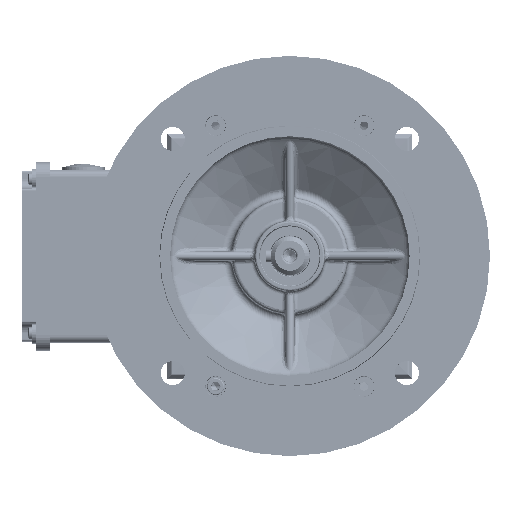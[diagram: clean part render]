
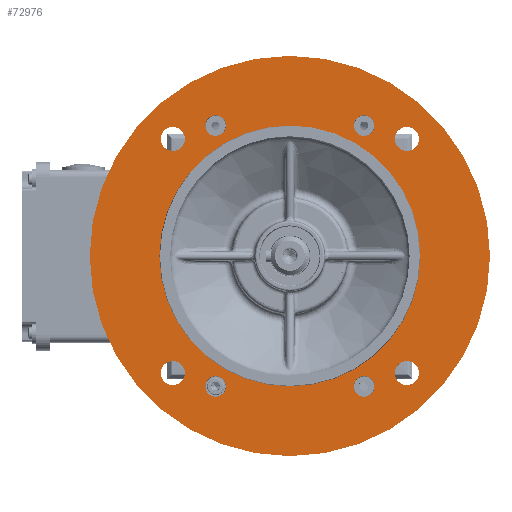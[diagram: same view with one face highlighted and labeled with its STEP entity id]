
A CAD part, top view. The second image highlights one B-rep face of the part: STEP entity #72976.
In plain terms, the highlighted planar face has unit normal (0, 0, 1).
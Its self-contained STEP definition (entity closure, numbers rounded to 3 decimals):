
#63019=PLANE('',#228924);
#72976=ADVANCED_FACE('',(#78710,#78711,#78712,#78713,#78714,#78715,#78716,
#78717,#78718,#78719),#63019,.T.);
#78710=FACE_BOUND('',#89205,.T.);
#78711=FACE_BOUND('',#89206,.T.);
#78712=FACE_BOUND('',#89207,.T.);
#78713=FACE_BOUND('',#89208,.T.);
#78714=FACE_BOUND('',#89209,.T.);
#78715=FACE_BOUND('',#89210,.T.);
#78716=FACE_BOUND('',#89211,.T.);
#78717=FACE_BOUND('',#89212,.T.);
#78718=FACE_BOUND('',#89213,.T.);
#78719=FACE_BOUND('',#89214,.T.);
#89205=EDGE_LOOP('',(#133119));
#89206=EDGE_LOOP('',(#133120));
#89207=EDGE_LOOP('',(#133121));
#89208=EDGE_LOOP('',(#133122));
#89209=EDGE_LOOP('',(#133123));
#89210=EDGE_LOOP('',(#133124));
#89211=EDGE_LOOP('',(#133125));
#89212=EDGE_LOOP('',(#133126));
#89213=EDGE_LOOP('',(#133127));
#89214=EDGE_LOOP('',(#133128));
#133119=ORIENTED_EDGE('',*,*,#177896,.T.);
#133120=ORIENTED_EDGE('',*,*,#177897,.T.);
#133121=ORIENTED_EDGE('',*,*,#177898,.T.);
#133122=ORIENTED_EDGE('',*,*,#177899,.T.);
#133123=ORIENTED_EDGE('',*,*,#177900,.T.);
#133124=ORIENTED_EDGE('',*,*,#177901,.T.);
#133125=ORIENTED_EDGE('',*,*,#177902,.T.);
#133126=ORIENTED_EDGE('',*,*,#177903,.T.);
#133127=ORIENTED_EDGE('',*,*,#177895,.T.);
#133128=ORIENTED_EDGE('',*,*,#176554,.T.);
#153230=VERTEX_POINT('',#420367);
#153986=VERTEX_POINT('',#436689);
#153987=VERTEX_POINT('',#436692);
#153988=VERTEX_POINT('',#436694);
#153989=VERTEX_POINT('',#436696);
#153990=VERTEX_POINT('',#436698);
#153991=VERTEX_POINT('',#436700);
#153992=VERTEX_POINT('',#436702);
#153993=VERTEX_POINT('',#436704);
#153994=VERTEX_POINT('',#436706);
#176554=EDGE_CURVE('',#153230,#153230,#190190,.T.);
#177895=EDGE_CURVE('',#153986,#153986,#190692,.T.);
#177896=EDGE_CURVE('',#153987,#153987,#190693,.T.);
#177897=EDGE_CURVE('',#153988,#153988,#190694,.T.);
#177898=EDGE_CURVE('',#153989,#153989,#190695,.T.);
#177899=EDGE_CURVE('',#153990,#153990,#190696,.T.);
#177900=EDGE_CURVE('',#153991,#153991,#190697,.T.);
#177901=EDGE_CURVE('',#153992,#153992,#190698,.T.);
#177902=EDGE_CURVE('',#153993,#153993,#190699,.T.);
#177903=EDGE_CURVE('',#153994,#153994,#190700,.T.);
#190190=CIRCLE('',#228101,65.);
#190692=CIRCLE('',#228914,99.75);
#190693=CIRCLE('',#228916,5.134);
#190694=CIRCLE('',#228917,5.134);
#190695=CIRCLE('',#228918,5.134);
#190696=CIRCLE('',#228919,5.134);
#190697=CIRCLE('',#228920,6.);
#190698=CIRCLE('',#228921,6.);
#190699=CIRCLE('',#228922,6.);
#190700=CIRCLE('',#228923,6.);
#228101=AXIS2_PLACEMENT_3D('',#420366,#266297,#266298);
#228914=AXIS2_PLACEMENT_3D('',#436688,#268103,#268104);
#228916=AXIS2_PLACEMENT_3D('',#436691,#268107,#268108);
#228917=AXIS2_PLACEMENT_3D('',#436693,#268109,#268110);
#228918=AXIS2_PLACEMENT_3D('',#436695,#268111,#268112);
#228919=AXIS2_PLACEMENT_3D('',#436697,#268113,#268114);
#228920=AXIS2_PLACEMENT_3D('',#436699,#268115,#268116);
#228921=AXIS2_PLACEMENT_3D('',#436701,#268117,#268118);
#228922=AXIS2_PLACEMENT_3D('',#436703,#268119,#268120);
#228923=AXIS2_PLACEMENT_3D('',#436705,#268121,#268122);
#228924=AXIS2_PLACEMENT_3D('',#436707,#268123,#268124);
#266297=DIRECTION('',(0.,0.,-1.));
#266298=DIRECTION('',(1.,0.,0.));
#268103=DIRECTION('',(0.,0.,1.));
#268104=DIRECTION('',(1.,0.,0.));
#268107=DIRECTION('',(0.,0.,-1.));
#268108=DIRECTION('',(1.,0.,0.));
#268109=DIRECTION('',(0.,0.,-1.));
#268110=DIRECTION('',(1.,0.,0.));
#268111=DIRECTION('',(0.,0.,-1.));
#268112=DIRECTION('',(1.,0.,0.));
#268113=DIRECTION('',(0.,0.,-1.));
#268114=DIRECTION('',(1.,0.,0.));
#268115=DIRECTION('',(0.,0.,-1.));
#268116=DIRECTION('',(-1.,0.,0.));
#268117=DIRECTION('',(0.,0.,-1.));
#268118=DIRECTION('',(-1.,0.,0.));
#268119=DIRECTION('',(0.,0.,-1.));
#268120=DIRECTION('',(-1.,0.,0.));
#268121=DIRECTION('',(0.,0.,-1.));
#268122=DIRECTION('',(-1.,0.,0.));
#268123=DIRECTION('',(0.,0.,1.));
#268124=DIRECTION('',(1.,0.,0.));
#420366=CARTESIAN_POINT('',(0.,0.,69.5));
#420367=CARTESIAN_POINT('',(65.,0.,69.5));
#436688=CARTESIAN_POINT('',(0.,0.,69.5));
#436689=CARTESIAN_POINT('',(99.75,0.,69.5));
#436691=CARTESIAN_POINT('',(-37.,-65.,69.5));
#436692=CARTESIAN_POINT('',(-31.866,-65.,69.5));
#436693=CARTESIAN_POINT('',(37.,-65.,69.5));
#436694=CARTESIAN_POINT('',(42.134,-65.,69.5));
#436695=CARTESIAN_POINT('',(37.,65.,69.5));
#436696=CARTESIAN_POINT('',(42.134,65.,69.5));
#436697=CARTESIAN_POINT('',(-37.,65.,69.5));
#436698=CARTESIAN_POINT('',(-31.866,65.,69.5));
#436699=CARTESIAN_POINT('',(-58.336,-58.336,69.5));
#436700=CARTESIAN_POINT('',(-64.336,-58.336,69.5));
#436701=CARTESIAN_POINT('',(58.336,-58.336,69.5));
#436702=CARTESIAN_POINT('',(52.336,-58.336,69.5));
#436703=CARTESIAN_POINT('',(58.336,58.336,69.5));
#436704=CARTESIAN_POINT('',(52.336,58.336,69.5));
#436705=CARTESIAN_POINT('',(-58.336,58.336,69.5));
#436706=CARTESIAN_POINT('',(-64.336,58.336,69.5));
#436707=CARTESIAN_POINT('',(0.,0.,69.5));
